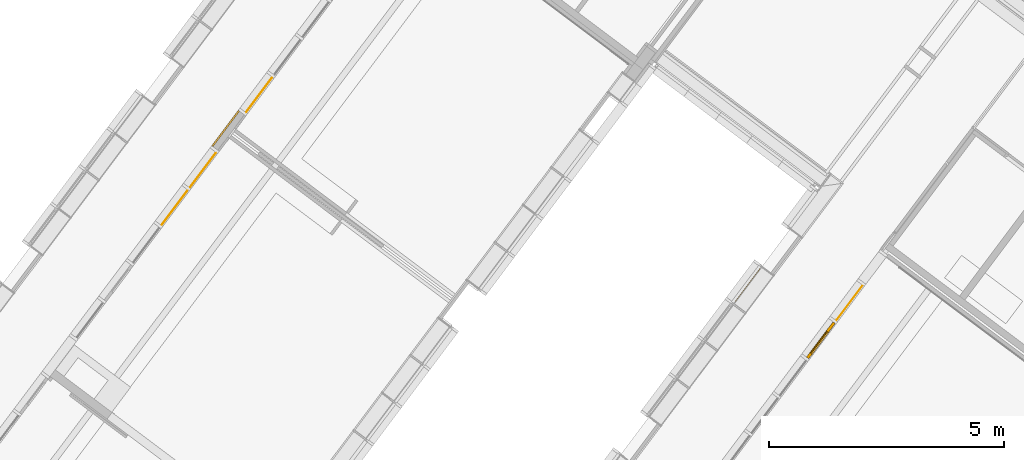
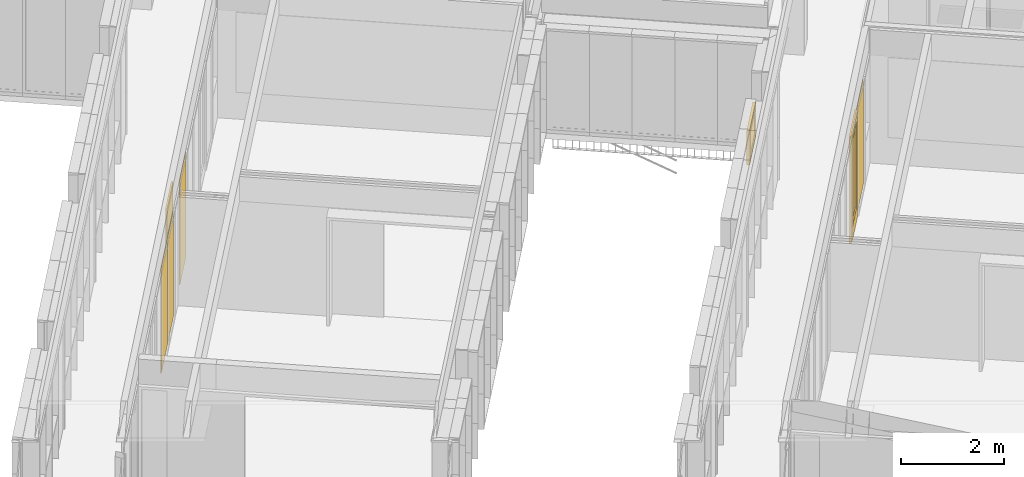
# One storey, part 192 of 243: 5 windows, 1 curtain wall, 1 door, 3 elements without a shape of their own.
"""IFC2X3 building model written with IfcOpenShell, lengths in metres."""

from ifc_helpers import new_model, entity, si_unit, converted_unit, derived_unit, direction, frame, frame_2d, origin, origin_2d_with_axis, place, context, subcontext, project, spatial, rectangle, extrude, faceted_brep, source, transform, mapped, material, material_list, layer, layer_set, layer_usage, type_object, type_shapes, element, aggregate, save


model = new_model("IFC2X3")

# Units and contexts
model_context = context("Model", 3, precision=1e-05, world=origin(), true_north=direction((6.123031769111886e-17, 1.0)))
body_context = subcontext(model_context, "Body", "Model", "MODEL_VIEW")
ifc_project = project(units=[si_unit("LENGTHUNIT", "METRE"), si_unit("AREAUNIT", "SQUARE_METRE"), si_unit("VOLUMEUNIT", "CUBIC_METRE"), converted_unit("PLANEANGLEUNIT", "DEGREE", entity("IfcRatioMeasure", 0.017453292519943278), si_unit("PLANEANGLEUNIT", "RADIAN"), dimensions=[0, 0, 0, 0, 0, 0, 0]), si_unit("MASSUNIT", "GRAM", prefix="KILO"), derived_unit("MASSDENSITYUNIT", [(si_unit("MASSUNIT", "GRAM", prefix="KILO"), 1), (si_unit("LENGTHUNIT", "METRE"), -3)]), derived_unit("IONCONCENTRATIONUNIT", [(si_unit("MASSUNIT", "GRAM", prefix="KILO"), 1), (si_unit("LENGTHUNIT", "METRE"), -3)]), derived_unit("MOMENTOFINERTIAUNIT", [(si_unit("LENGTHUNIT", "METRE"), 4)]), si_unit("TIMEUNIT", "SECOND"), si_unit("FREQUENCYUNIT", "HERTZ"), si_unit("THERMODYNAMICTEMPERATUREUNIT", "DEGREE_CELSIUS"), derived_unit("THERMALTRANSMITTANCEUNIT", [(si_unit("MASSUNIT", "GRAM", prefix="KILO"), 1), (si_unit("THERMODYNAMICTEMPERATUREUNIT", "KELVIN"), -1), (si_unit("TIMEUNIT", "SECOND"), -3)]), derived_unit("THERMALCONDUCTANCEUNIT", [(si_unit("MASSUNIT", "GRAM", prefix="KILO"), 1), (si_unit("THERMODYNAMICTEMPERATUREUNIT", "KELVIN"), -1), (si_unit("TIMEUNIT", "SECOND"), -3), (si_unit("LENGTHUNIT", "METRE"), 1)]), derived_unit("VOLUMETRICFLOWRATEUNIT", [(si_unit("LENGTHUNIT", "METRE"), 3), (si_unit("TIMEUNIT", "SECOND"), -1)]), derived_unit("MASSFLOWRATEUNIT", [(si_unit("MASSUNIT", "GRAM", prefix="KILO"), 1), (si_unit("TIMEUNIT", "SECOND"), -1)]), derived_unit("ROTATIONALFREQUENCYUNIT", [(si_unit("TIMEUNIT", "SECOND"), -1)]), si_unit("ELECTRICCURRENTUNIT", "AMPERE"), si_unit("ELECTRICVOLTAGEUNIT", "VOLT"), si_unit("POWERUNIT", "WATT"), si_unit("FORCEUNIT", "NEWTON", prefix="KILO"), si_unit("ILLUMINANCEUNIT", "LUX"), si_unit("LUMINOUSFLUXUNIT", "LUMEN"), si_unit("LUMINOUSINTENSITYUNIT", "CANDELA"), derived_unit("USERDEFINED", [(si_unit("MASSUNIT", "GRAM", prefix="KILO"), -1), (si_unit("LENGTHUNIT", "METRE"), -2), (si_unit("TIMEUNIT", "SECOND"), 3), (si_unit("LUMINOUSFLUXUNIT", "LUMEN"), 1)]), derived_unit("USERDEFINED", [(si_unit("MASSUNIT", "GRAM", prefix="KILO"), 1), (si_unit("TIMEUNIT", "SECOND"), -3), (si_unit("LENGTHUNIT", "METRE"), 3), (si_unit("ELECTRICCURRENTUNIT", "AMPERE"), -2)]), derived_unit("SOUNDPOWERUNIT", [(si_unit("MASSUNIT", "GRAM", prefix="KILO"), 1), (si_unit("TIMEUNIT", "SECOND"), -3), (si_unit("LENGTHUNIT", "METRE"), 2)]), derived_unit("SOUNDPRESSUREUNIT", [(si_unit("MASSUNIT", "GRAM", prefix="KILO"), 1), (si_unit("LENGTHUNIT", "METRE"), -1), (si_unit("TIMEUNIT", "SECOND"), -2)]), derived_unit("LINEARVELOCITYUNIT", [(si_unit("LENGTHUNIT", "METRE"), 1), (si_unit("TIMEUNIT", "SECOND"), -1)]), si_unit("PRESSUREUNIT", "PASCAL"), derived_unit("USERDEFINED", [(si_unit("MASSUNIT", "GRAM", prefix="KILO"), 1), (si_unit("LENGTHUNIT", "METRE"), -2), (si_unit("TIMEUNIT", "SECOND"), -2)]), derived_unit("LINEARFORCEUNIT", [(si_unit("MASSUNIT", "GRAM", prefix="KILO"), 1), (si_unit("TIMEUNIT", "SECOND"), -2)]), derived_unit("PLANARFORCEUNIT", [(si_unit("MASSUNIT", "GRAM", prefix="KILO"), 1), (si_unit("LENGTHUNIT", "METRE"), -1), (si_unit("TIMEUNIT", "SECOND"), -2)]), derived_unit("SPECIFICHEATCAPACITYUNIT", [(si_unit("THERMODYNAMICTEMPERATUREUNIT", "KELVIN"), -1), (si_unit("LENGTHUNIT", "METRE"), 2), (si_unit("TIMEUNIT", "SECOND"), -2)]), derived_unit("HEATINGVALUEUNIT", [(si_unit("LENGTHUNIT", "METRE"), 2), (si_unit("TIMEUNIT", "SECOND"), -2)]), derived_unit("VAPORPERMEABILITYUNIT", [(si_unit("LENGTHUNIT", "METRE"), -1), (si_unit("TIMEUNIT", "SECOND"), 1)]), derived_unit("DYNAMICVISCOSITYUNIT", [(si_unit("MASSUNIT", "GRAM", prefix="KILO"), 1), (si_unit("TIMEUNIT", "SECOND"), -1), (si_unit("LENGTHUNIT", "METRE"), -1)]), derived_unit("THERMALEXPANSIONCOEFFICIENTUNIT", [(si_unit("THERMODYNAMICTEMPERATUREUNIT", "KELVIN"), -1)]), derived_unit("MODULUSOFELASTICITYUNIT", [(si_unit("MASSUNIT", "GRAM", prefix="KILO"), 1), (si_unit("LENGTHUNIT", "METRE"), -1), (si_unit("TIMEUNIT", "SECOND"), -2)]), derived_unit("ISOTHERMALMOISTURECAPACITYUNIT", [(si_unit("LENGTHUNIT", "METRE"), 3), (si_unit("MASSUNIT", "GRAM", prefix="KILO"), -1)]), derived_unit("MOISTUREDIFFUSIVITYUNIT", [(si_unit("TIMEUNIT", "SECOND"), -1), (si_unit("LENGTHUNIT", "METRE"), 2)])], contexts=[model_context])

# Site, building, storey
site_placement = place(None, frame((0.0, 0.0, 235.0), z_axis=(0.0, 0.0, 1.0), x_axis=(-0.7996477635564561, 0.6004693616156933, 0.0)))
site = spatial("IfcSite", under=ifc_project, at=site_placement, Name="Default", CompositionType="ELEMENT")
building_placement = place(site_placement, origin())
building = spatial("IfcBuilding", under=site, at=building_placement, CompositionType="ELEMENT")
storey_placement = place(building_placement, origin())
storey = spatial("IfcBuildingStorey", under=building, at=storey_placement, Name="P0- Escola", CompositionType="ELEMENT", Elevation=0.0)

# Curtain walls
curtain_wall_type_1 = type_object("IfcCurtainWallType", Name="Muro cortina:MC- INT- a1", PredefinedType="NOTDEFINED")
curtain_wall_1_placement = place(storey_placement, origin())
curtain_wall_1 = element("IfcCurtainWall", 1, at=curtain_wall_1_placement, inside=storey, type_object=curtain_wall_type_1, Name="Muro cortina:MC- INT- a1", ObjectType="Muro cortina:MC- INT- a1")
ifc_material_1 = material(Name="_Fusta massisa- T1-  REV- PAV")
ifc_layer_1 = layer(ifc_material_1, 0.015)
ifc_material_2 = material(Name="_Genèric perfils, muntants, rastrells")
ifc_layer_2 = layer(ifc_material_2, 0.02)
ifc_layer_set = layer_set([ifc_layer_1, ifc_layer_2], Name="Muro básico:REV- Fusta- T1- 3,5 cm")
ifc_layer_usage = layer_usage(ifc_layer_set, "AXIS2", "NEGATIVE", 0.0175)
curtain_wall_type_2 = type_object("IfcCurtainWallType", Name="Muro básico:REV- Fusta- T1- 3,5 cm", PredefinedType="NOTDEFINED", material=ifc_layer_set)
curtain_wall_2_placement = place(storey_placement, frame((60.16264768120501, -29.445189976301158, 0.0), z_axis=(0.0, 0.0, 1.0), x_axis=(0.0, -1.0, 0.0)))
curtain_wall_2 = element("IfcCurtainWall", 2, at=curtain_wall_2_placement, type_object=curtain_wall_type_2, material=ifc_layer_usage, Name="Muro básico:REV- Fusta- T1- 3,5 cm", ObjectType="Muro básico:REV- Fusta- T1- 3,5 cm", context=body_context, shape_type="SweptSolid", body=[
    extrude(rectangle(XDim=0.03500000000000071, YDim=0.9399999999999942, at=frame_2d((4.331604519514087e-15, 0.0), x_axis=(1.0, 0.0))), frame((0.4699999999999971, 0.0, 0.0), z_axis=(0.0, 0.0, 1.0), x_axis=(0.0, 1.0, 0.0)), (0.0, 0.0, 1.0), 2.5050000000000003),
])

# Curtain wall, window
curtain_wall_3_placement = place(storey_placement, origin())
curtain_wall_3 = element("IfcCurtainWall", 3, at=curtain_wall_3_placement, inside=storey, type_object=curtain_wall_type_1, Name="Muro cortina:MC- INT- a1", ObjectType="Muro cortina:MC- INT- a1")
ifc_material_3 = material(Name="_Vidre")
window_style_1 = type_object("IfcWindowStyle", Name="MC- Fusta- vidre fix:MC- Fusta- vidre fix", ConstructionType="NOTDEFINED", OperationType="NOTDEFINED", ParameterTakesPrecedence=False, Sizeable=False, material=ifc_material_3)
shared_shape_1 = source(origin(), body_context, "Body", "SweptSolid", [
    extrude(rectangle(XDim=0.9699999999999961, YDim=0.015999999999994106, at=origin_2d_with_axis()), frame((0.0, 0.0, 0.0), z_axis=(0.0, 0.0, 1.0), x_axis=(-1.0, 0.0, 0.0)), (0.0, 0.0, 1.0), 2.475),
])
type_shapes(window_style_1, [shared_shape_1])
window_1_placement = place(curtain_wall_3_placement, frame((47.320147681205, -34.9151899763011, 0.045000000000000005), z_axis=(0.0, 0.0, 1.0), x_axis=(0.0, -1.0, 0.0)))
window_1 = element("IfcWindow", 4, at=window_1_placement, type_object=window_style_1, material=ifc_material_3, Name="MC- Fusta- vidre fix:MC- Fusta- vidre fix", ObjectType="MC- Fusta- vidre fix:MC- Fusta- vidre fix", OverallHeight=2.475, OverallWidth=0.9699999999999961, context=body_context, shape_type="MappedRepresentation", body=[
    mapped(shared_shape_1, transform((0.0, 0.0, 0.0), scale=1.0)),
])

# Window
window_2_placement = place(curtain_wall_1_placement, frame((60.020147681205, -27.91518997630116, 0.045000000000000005), z_axis=(0.0, 0.0, 1.0), x_axis=(0.0, -1.0, 0.0)))
window_2 = element("IfcWindow", 5, at=window_2_placement, type_object=window_style_1, material=ifc_material_3, Name="MC- Fusta- vidre fix:MC- Fusta- vidre fix", ObjectType="MC- Fusta- vidre fix:MC- Fusta- vidre fix", OverallHeight=2.475, OverallWidth=0.9699999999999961, context=body_context, shape_type="MappedRepresentation", body=[
    mapped(shared_shape_1, transform((0.0, 0.0, 0.0), scale=1.0)),
])

window_3_placement = place(curtain_wall_1_placement, frame((60.020147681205, -28.915189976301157, 0.045000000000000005), z_axis=(0.0, 0.0, 1.0), x_axis=(0.0, -1.0, 0.0)))
window_3 = element("IfcWindow", 6, at=window_3_placement, type_object=window_style_1, material=ifc_material_3, Name="MC- Fusta- vidre fix:MC- Fusta- vidre fix", ObjectType="MC- Fusta- vidre fix:MC- Fusta- vidre fix", OverallHeight=2.475, OverallWidth=0.9699999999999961, context=body_context, shape_type="MappedRepresentation", body=[
    mapped(shared_shape_1, transform((0.0, 0.0, 0.0), scale=1.0)),
])

window_4_placement = place(curtain_wall_1_placement, frame((60.020147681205, -30.915189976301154, 0.045000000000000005), z_axis=(0.0, 0.0, 1.0), x_axis=(0.0, -1.0, 0.0)))
window_4 = element("IfcWindow", 7, at=window_4_placement, type_object=window_style_1, material=ifc_material_3, Name="MC- Fusta- vidre fix:MC- Fusta- vidre fix", ObjectType="MC- Fusta- vidre fix:MC- Fusta- vidre fix", OverallHeight=2.475, OverallWidth=0.9699999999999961, context=body_context, shape_type="MappedRepresentation", body=[
    mapped(shared_shape_1, transform((0.0, 0.0, 0.0), scale=1.0)),
])

aggregate(curtain_wall_1, [window_2, window_3, curtain_wall_2, window_4])

# Door
ifc_material_4 = material(Name="_Fusta massisa- T1")
ifc_material_list_1 = material_list([ifc_material_4, ifc_material_3])
door_style = type_object("IfcDoorStyle", Name="MC- Fusta- conjunt porta:MC- Fusta- conjunt Porta aules", ConstructionType="NOTDEFINED", OperationType="NOTDEFINED", ParameterTakesPrecedence=False, Sizeable=False, material=ifc_material_list_1)
shared_shape_2 = source(origin(), body_context, "Body", "Brep", [
    faceted_brep([(0.24500000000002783, -0.024999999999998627, 2.3799999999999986), (0.24500000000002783, -0.024999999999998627, 0.3299999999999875), (0.24500000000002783, 0.0050000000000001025, 0.3299999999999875), (0.24500000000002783, 0.0050000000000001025, 2.3799999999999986), (-0.3700000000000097, -0.024999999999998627, 0.3299999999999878), (-0.3700000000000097, 0.0050000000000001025, 0.3299999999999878), (-0.37000000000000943, -0.024999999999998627, 2.3799999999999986), (-0.37000000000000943, 0.0050000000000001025, 2.3799999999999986), (0.23000000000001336, 0.0050000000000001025, 2.3650000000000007), (-0.35499999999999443, 0.0050000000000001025, 2.3650000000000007), (-0.35499999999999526, 0.0050000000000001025, 0.3449999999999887), (0.23000000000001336, 0.0050000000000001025, 0.34499999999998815), (0.23000000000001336, -0.024999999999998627, 2.3650000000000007), (0.23000000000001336, -0.024999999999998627, 0.34499999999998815), (-0.35499999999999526, -0.024999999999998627, 0.3449999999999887), (-0.35499999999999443, -0.024999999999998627, 2.3650000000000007)], [[[0, 1, 2, 3]], [[1, 4, 5, 2]], [[4, 6, 7, 5]], [[8, 9, 10, 11], [3, 2, 5, 7]], [[12, 13, 14, 15], [0, 6, 4, 1]], [[13, 12, 8, 11]], [[14, 13, 11, 10]], [[15, 14, 10, 9]], [[6, 0, 3, 7]], [[12, 15, 9, 8]]], outer=[[True], [True], [True], [False, True], [False, True], [True], [True], [True], [True], [True]]),
    faceted_brep([(0.43999999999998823, 0.03999999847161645, 0.0), (0.43999999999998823, 0.0099999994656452, 0.0), (0.4550000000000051, 0.0099999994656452, 0.0), (0.4550000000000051, -0.01999999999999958, 0.0), (-0.45499999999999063, -0.019999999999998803, 0.0), (-0.45499999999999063, 0.009999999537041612, 0.0), (-0.43999999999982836, 0.009999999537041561, 0.0), (-0.43999999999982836, 0.039999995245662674, 0.0), (0.45500000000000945, -0.01999999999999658, 2.4899999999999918), (-0.45499999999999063, -0.019999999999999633, 2.4899999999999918), (0.24500000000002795, -0.019999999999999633, 0.3300000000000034), (-0.37000000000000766, -0.019999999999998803, 0.3300000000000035), (-0.37000000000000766, -0.01999999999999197, 2.3799999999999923), (0.24500000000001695, -0.019999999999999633, 2.3799999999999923), (0.45500000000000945, 0.0099999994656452, 2.4899999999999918), (-0.45499999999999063, 0.0099999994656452, 2.4899999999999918), (0.43999999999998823, 0.03999999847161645, 2.4749999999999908), (0.43999999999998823, 0.0099999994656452, 2.4749999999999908), (-0.43999999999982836, 0.0099999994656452, 2.4749999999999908), (-0.43999999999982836, 0.039999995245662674, 2.4749999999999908), (-0.3549999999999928, 0.03999999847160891, 0.3450000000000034), (0.2300000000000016, 0.03999999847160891, 0.3450000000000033), (0.2300000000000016, 0.03999999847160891, 2.364999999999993), (-0.3549999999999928, 0.03999999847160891, 2.364999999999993), (-0.3549999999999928, 0.025000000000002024, 0.3450000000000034), (0.2300000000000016, 0.025000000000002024, 0.3450000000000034), (0.2300000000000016, 0.024999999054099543, 2.364999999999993), (-0.3549999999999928, 0.03999999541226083, 2.364999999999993), (-0.3549999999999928, 0.024999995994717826, 2.364999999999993), (0.2300000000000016, 0.025000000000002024, 2.364999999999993), (-0.37000000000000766, 0.025000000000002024, 0.3300000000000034), (0.24500000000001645, 0.025000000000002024, 0.3300000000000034), (0.24500000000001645, 0.025000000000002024, 2.3799999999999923), (-0.37000000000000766, 0.025000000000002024, 2.3799999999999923), (0.24500000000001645, 0.024999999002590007, 0.3300000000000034), (-0.37000000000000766, 0.02499999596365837, 2.3799999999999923), (0.24500000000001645, 0.024999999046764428, 2.3799999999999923)], [[[0, 1, 2, 3, 4, 5, 6, 7]], [[8, 9, 4, 3], [10, 11, 12, 13]], [[8, 3, 2, 14]], [[15, 5, 4, 9]], [[16, 17, 1, 0]], [[14, 2, 1, 17, 18, 6, 5, 15]], [[18, 19, 7, 6]], [[16, 0, 7, 19], [20, 21, 22, 23]], [[21, 20, 24, 25]], [[21, 25, 26, 22]], [[24, 20, 27, 28]], [[25, 24, 28, 29], [30, 31, 32, 33]], [[11, 10, 31, 30]], [[34, 10, 13, 32]], [[11, 30, 35, 12]], [[9, 8, 14, 15]], [[17, 16, 19, 18]], [[23, 22, 29, 28]], [[13, 12, 33, 36]]], outer=[[True], [True, False], [True], [True], [True], [True], [True], [True, False], [True], [True], [True], [False, True], [True], [True], [True], [True], [True], [True], [True]]),
    faceted_brep([(-0.37000000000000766, 0.024999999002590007, 0.3300000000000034), (0.2450000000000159, 0.024999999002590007, 0.3300000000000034), (0.2450000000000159, 0.0050000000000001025, 0.3300000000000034), (-0.37000000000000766, 0.0050000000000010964, 0.3300000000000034), (-0.37000000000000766, 0.024999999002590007, 2.380000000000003), (0.2450000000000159, 0.024999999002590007, 2.380000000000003), (0.2450000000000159, 0.0050000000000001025, 2.380000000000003), (-0.37000000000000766, 0.0050000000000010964, 2.380000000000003)], [[[0, 1, 2, 3]], [[4, 5, 1, 0]], [[5, 6, 2, 1]], [[6, 7, 3, 2]], [[7, 4, 0, 3]], [[4, 7, 6, 5]]]),
    faceted_brep([(0.46500000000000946, -0.01999999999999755, 0.0), (0.4550000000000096, -0.01999999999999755, 0.0), (0.4550000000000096, 0.010000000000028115, 0.0), (0.44000000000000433, 0.010000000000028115, 0.0), (0.44000000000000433, 0.0400000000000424, 0.0), (0.46500000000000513, 0.0400000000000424, 0.0), (0.46500000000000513, 0.03600000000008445, 0.0), (0.469999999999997, 0.03600000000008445, 0.0), (0.469999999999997, -0.015999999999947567, 0.0), (0.46500000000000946, -0.015999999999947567, 0.0), (0.46500000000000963, -0.01999999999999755, 2.5000000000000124), (-0.46500000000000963, -0.01999999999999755, 2.5000000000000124), (-0.46500000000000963, -0.01999999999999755, 0.0), (-0.45500000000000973, -0.01999999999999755, 0.0), (-0.45500000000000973, -0.01999999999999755, 2.4900000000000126), (0.4550000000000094, -0.01999999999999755, 2.490000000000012), (0.4550000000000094, 0.010000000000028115, 2.490000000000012), (-0.45500000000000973, 0.010000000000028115, 2.4900000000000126), (-0.45500000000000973, 0.010000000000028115, 0.0), (-0.4400000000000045, 0.010000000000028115, 0.0), (-0.4400000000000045, 0.010000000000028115, 2.4750000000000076), (0.4400000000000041, 0.010000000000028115, 2.4750000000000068), (0.4400000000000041, 0.0400000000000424, 2.4750000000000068), (-0.4400000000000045, 0.0400000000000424, 2.4750000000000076), (-0.4400000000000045, 0.0400000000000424, 0.0), (-0.4650000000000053, 0.0400000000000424, 0.0), (-0.4650000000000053, 0.0400000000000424, 2.5000000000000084), (0.46500000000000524, 0.0400000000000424, 2.5000000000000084), (0.46500000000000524, 0.03600000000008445, 2.5000000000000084), (-0.4650000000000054, 0.03600000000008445, 2.5000000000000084), (-0.4650000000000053, 0.03600000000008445, 0.0), (-0.4699999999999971, 0.03600000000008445, 0.0), (-0.4699999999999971, 0.03600000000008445, 2.5050000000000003), (0.46999999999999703, 0.03600000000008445, 2.5050000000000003), (0.46999999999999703, -0.015999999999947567, 2.5050000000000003), (-0.46999999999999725, -0.015999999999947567, 2.5050000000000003), (-0.4699999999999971, -0.015999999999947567, 0.0), (-0.46500000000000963, -0.015999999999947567, 0.0), (-0.46500000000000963, -0.015999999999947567, 2.5000000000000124), (0.4650000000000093, -0.015999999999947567, 2.500000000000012)], [[[0, 1, 2, 3, 4, 5, 6, 7, 8, 9]], [[1, 0, 10, 11, 12, 13, 14, 15]], [[2, 1, 15, 16]], [[3, 2, 16, 17, 18, 19, 20, 21]], [[4, 3, 21, 22]], [[5, 4, 22, 23, 24, 25, 26, 27]], [[6, 5, 27, 28]], [[7, 6, 28, 29, 30, 31, 32, 33]], [[8, 7, 33, 34]], [[9, 8, 34, 35, 36, 37, 38, 39]], [[0, 9, 39, 10]], [[11, 38, 37, 12]], [[12, 37, 36, 31, 30, 25, 24, 19, 18, 13]], [[17, 14, 13, 18]], [[23, 20, 19, 24]], [[29, 26, 25, 30]], [[35, 32, 31, 36]], [[16, 15, 14, 17]], [[22, 21, 20, 23]], [[28, 27, 26, 29]], [[34, 33, 32, 35]], [[10, 39, 38, 11]]]),
])
type_shapes(door_style, [shared_shape_2])
door_placement = place(curtain_wall_3_placement, frame((47.320147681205, -33.91518997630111, 0.0), z_axis=(0.0, 0.0, 1.0), x_axis=(0.0, -1.0, 0.0)))
door = element("IfcDoor", 8, at=door_placement, type_object=door_style, material=ifc_material_list_1, Name="MC- Fusta- conjunt porta:MC- Fusta- conjunt Porta aules", ObjectType="MC- Fusta- conjunt porta:MC- Fusta- conjunt Porta aules", OverallHeight=2.5050000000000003, OverallWidth=0.9399999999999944, context=body_context, shape_type="MappedRepresentation", body=[
    mapped(shared_shape_2, transform((0.0, 0.0, 0.0), scale=1.0)),
])

aggregate(curtain_wall_3, [door, window_1])

# Curtain wall, window
curtain_wall_type_3 = type_object("IfcCurtainWallType", Name="Muro cortina:MC- EXT- MC5", PredefinedType="NOTDEFINED")
curtain_wall_4_placement = place(storey_placement, origin())
curtain_wall_4 = element("IfcCurtainWall", 9, at=curtain_wall_4_placement, inside=storey, type_object=curtain_wall_type_3, Name="Muro cortina:MC- EXT- MC5", ObjectType="Muro cortina:MC- EXT- MC5")
ifc_material_5 = material(Name="_Alumini- T1- Perfil")
ifc_material_list_2 = material_list([ifc_material_3, ifc_material_5])
window_style_2 = type_object("IfcWindowStyle", Name="MC- Alu- Conjunt finestra basculant- 68x68 cm:MC- Alu- Conjunt finestra basculant- 68x68 cm", ConstructionType="NOTDEFINED", OperationType="NOTDEFINED", ParameterTakesPrecedence=False, Sizeable=False, material=ifc_material_list_2)
shared_shape_3 = source(origin(), body_context, "Body", "Brep", [
    faceted_brep([(-0.43291170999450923, -0.03559830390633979, 0.051999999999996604), (-0.43291170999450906, -0.011598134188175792, 0.051999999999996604), (0.43291170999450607, -0.011598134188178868, 0.051999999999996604), (0.43291170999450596, -0.03559830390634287, 0.051999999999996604), (-0.43291170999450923, -0.03559830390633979, 0.7565527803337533), (-0.4329117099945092, -0.011598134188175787, 0.7565527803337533), (0.43291170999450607, -0.011598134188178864, 0.7565527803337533), (0.43291170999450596, -0.03559830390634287, 0.7565527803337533)], [[[0, 1, 2, 3]], [[4, 5, 1, 0]], [[5, 6, 2, 1]], [[6, 7, 3, 2]], [[7, 4, 0, 3]], [[4, 7, 6, 5]]]),
    faceted_brep([(0.4172108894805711, -0.009998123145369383, 0.7408519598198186), (0.4172108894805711, -0.007998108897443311, 0.7408519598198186), (0.4172108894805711, -0.007998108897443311, 0.06789804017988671), (0.4172108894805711, -0.009998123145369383, 0.06789804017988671), (0.44610892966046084, -0.007998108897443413, 0.7697499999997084), (0.44610892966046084, -0.007998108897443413, 0.03899999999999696), (-0.44610892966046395, -0.007998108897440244, 0.03899999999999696), (-0.44610892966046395, -0.007998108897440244, 0.7697499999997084), (-0.4172108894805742, -0.007998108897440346, 0.7408519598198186), (-0.4172108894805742, -0.007998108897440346, 0.06789804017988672), (-0.4172108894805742, -0.009998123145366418, 0.06789804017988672), (-0.4172108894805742, -0.009998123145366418, 0.7408519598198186), (-0.4329117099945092, -0.00999812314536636, 0.7565527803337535), (-0.4329117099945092, -0.009998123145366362, 0.05219721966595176), (0.43291170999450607, -0.009998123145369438, 0.052197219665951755), (0.43291170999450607, -0.009998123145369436, 0.7565527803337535), (0.4329117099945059, -0.04079986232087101, 0.7565527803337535), (0.4329117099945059, -0.04079986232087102, 0.052197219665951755), (-0.4329117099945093, -0.04079986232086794, 0.05219721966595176), (-0.4329117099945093, -0.04079986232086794, 0.7565527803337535), (-0.41721088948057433, -0.040799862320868, 0.7408519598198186), (-0.41721088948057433, -0.040799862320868, 0.06789804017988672), (0.41721088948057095, -0.04079986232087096, 0.06789804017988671), (0.41721088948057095, -0.04079986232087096, 0.7408519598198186), (0.41721088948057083, -0.06800005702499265, 0.7408519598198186), (0.4172108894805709, -0.06800005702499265, 0.06789804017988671), (-0.4172108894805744, -0.0680000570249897, 0.06789804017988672), (-0.4172108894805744, -0.0680000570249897, 0.7408519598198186), (-0.4636128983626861, -0.06800005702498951, 0.7872539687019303), (-0.4636128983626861, -0.06800005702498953, 0.021496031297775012), (0.4636128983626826, -0.06800005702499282, 0.021496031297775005), (0.4636128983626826, -0.06800005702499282, 0.7872539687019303), (0.4636128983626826, -0.0645000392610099, 0.7872539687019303), (0.4636128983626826, -0.0645000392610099, 0.021496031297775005), (-0.4636128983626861, -0.06450003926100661, 0.021496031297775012), (-0.4636128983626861, -0.06450003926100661, 0.7872539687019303), (-0.44610892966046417, -0.06450003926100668, 0.7697499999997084), (-0.44610892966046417, -0.06450003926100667, 0.03899999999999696), (0.4461089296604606, -0.06450003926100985, 0.038999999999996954), (0.4461089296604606, -0.06450003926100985, 0.7697499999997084)], [[[0, 1, 2, 3]], [[4, 5, 6, 7], [8, 9, 2, 1]], [[3, 2, 9, 10]], [[0, 3, 10, 11], [12, 13, 14, 15]], [[16, 15, 14, 17]], [[17, 14, 13, 18]], [[16, 17, 18, 19], [20, 21, 22, 23]], [[24, 23, 22, 25]], [[25, 22, 21, 26]], [[24, 25, 26, 27], [28, 29, 30, 31]], [[32, 31, 30, 33]], [[33, 30, 29, 34]], [[32, 33, 34, 35], [36, 37, 38, 39]], [[4, 39, 38, 5]], [[5, 38, 37, 6]], [[10, 9, 8, 11]], [[18, 13, 12, 19]], [[26, 21, 20, 27]], [[34, 29, 28, 35]], [[6, 37, 36, 7]], [[11, 8, 1, 0]], [[19, 12, 15, 16]], [[27, 20, 23, 24]], [[35, 28, 31, 32]], [[7, 36, 39, 4]]], outer=[[True], [True, False], [True], [False, True], [True], [True], [True, False], [True], [True], [False, True], [True], [True], [True, False], [True], [True], [True], [True], [True], [True], [True], [True], [True], [True], [True], [True]]),
    faceted_brep([(-0.42219318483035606, 0.0, 0.7459431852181), (-0.42219318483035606, -0.0040000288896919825, 0.7459431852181), (-0.422193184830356, -0.0040000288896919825, 0.06280681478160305), (-0.42219318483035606, 0.0, 0.06280681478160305), (-0.4575998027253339, -0.0040000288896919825, 0.7813498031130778), (-0.4575998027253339, -0.0040000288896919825, 0.027400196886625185), (0.4575998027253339, -0.0040000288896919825, 0.027400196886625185), (0.4575998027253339, -0.0040000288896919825, 0.7813498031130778), (0.422193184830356, -0.0040000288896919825, 0.7459431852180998), (0.42219318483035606, -0.0040000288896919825, 0.06280681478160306), (0.42219318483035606, 0.0, 0.06280681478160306), (0.42219318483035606, 0.0, 0.7459431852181), (0.48499999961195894, 0.0, 0.8087499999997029), (0.48499999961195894, 0.0, 0.0), (-0.48499999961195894, 0.0, 0.0), (-0.48499999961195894, 0.0, 0.8087499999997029), (-0.48499999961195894, -0.05999999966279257, 0.8087499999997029), (-0.48499999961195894, -0.05999999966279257, 0.0), (0.48499999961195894, -0.05999999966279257, 0.0), (0.48499999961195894, -0.05999999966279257, 0.8087499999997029), (0.4575998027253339, -0.05999999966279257, 0.7813498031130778), (0.4575998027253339, -0.05999999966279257, 0.027400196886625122), (-0.4575998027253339, -0.05999999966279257, 0.02740019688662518), (-0.4575998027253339, -0.05999999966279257, 0.7813498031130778)], [[[0, 1, 2, 3]], [[4, 5, 6, 7], [8, 9, 2, 1]], [[3, 2, 9, 10]], [[0, 3, 10, 11], [12, 13, 14, 15]], [[16, 15, 14, 17]], [[17, 14, 13, 18]], [[16, 17, 18, 19], [20, 21, 22, 23]], [[4, 23, 22, 5]], [[5, 22, 21, 6]], [[10, 9, 8, 11]], [[18, 13, 12, 19]], [[6, 21, 20, 7]], [[11, 8, 1, 0]], [[19, 12, 15, 16]], [[7, 20, 23, 4]]], outer=[[True], [True, False], [True], [False, True], [True], [True], [True, False], [True], [True], [True], [True], [True], [True], [True], [True]]),
])
type_shapes(window_style_2, [shared_shape_3])
window_5_placement = place(curtain_wall_4_placement, frame((49.345147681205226, -33.91519175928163, 1.695000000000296), z_axis=(0.0, 0.0, 1.0), x_axis=(0.0, -1.0, 0.0)))
window_5 = element("IfcWindow", 10, at=window_5_placement, type_object=window_style_2, material=ifc_material_list_2, Name="MC- Alu- Conjunt finestra basculant- 68x68 cm:MC- Alu- Conjunt finestra basculant- 68x68 cm", ObjectType="MC- Alu- Conjunt finestra basculant- 68x68 cm:MC- Alu- Conjunt finestra basculant- 68x68 cm", OverallHeight=0.8087499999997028, OverallWidth=0.9699999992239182, context=body_context, shape_type="MappedRepresentation", body=[
    mapped(shared_shape_3, transform((0.0, 0.0, 0.0), scale=1.0)),
])
aggregate(curtain_wall_4, [window_5])

save(model, "model.ifc")
